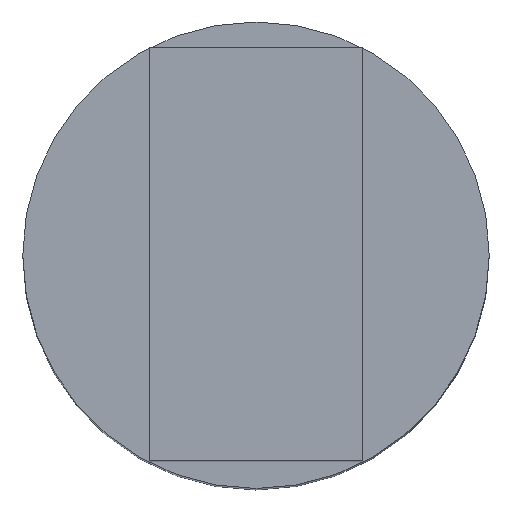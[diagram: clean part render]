
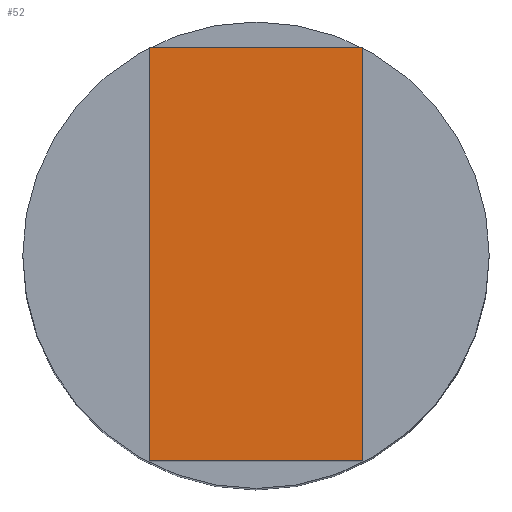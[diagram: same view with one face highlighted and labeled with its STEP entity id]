
A CAD part, top view. The second image highlights one B-rep face of the part: STEP entity #52.
In plain terms, the highlighted planar face has unit normal (0, 0, 1).
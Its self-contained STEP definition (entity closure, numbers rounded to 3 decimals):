
#40=PLANE('',#290);
#52=ADVANCED_FACE('',(#64),#40,.T.);
#64=FACE_OUTER_BOUND('',#78,.F.);
#78=EDGE_LOOP('',(#111,#112,#113,#114));
#111=ORIENTED_EDGE('',*,*,#217,.T.);
#112=ORIENTED_EDGE('',*,*,#220,.T.);
#113=ORIENTED_EDGE('',*,*,#219,.T.);
#114=ORIENTED_EDGE('',*,*,#218,.T.);
#217=EDGE_CURVE('',#260,#259,#233,.T.);
#218=EDGE_CURVE('',#258,#260,#234,.T.);
#219=EDGE_CURVE('',#257,#258,#235,.T.);
#220=EDGE_CURVE('',#259,#257,#236,.T.);
#233=LINE('',#389,#249);
#234=LINE('',#390,#250);
#235=LINE('',#391,#251);
#236=LINE('',#392,#252);
#249=VECTOR('',#322,5.8);
#250=VECTOR('',#323,3.);
#251=VECTOR('',#324,5.8);
#252=VECTOR('',#325,3.);
#257=VERTEX_POINT('',#357);
#258=VERTEX_POINT('',#358);
#259=VERTEX_POINT('',#359);
#260=VERTEX_POINT('',#360);
#290=AXIS2_PLACEMENT_3D('',#404,#344,#345);
#322=DIRECTION('',(0.,1.,0.));
#323=DIRECTION('',(-1.,0.,0.));
#324=DIRECTION('',(0.,-1.,0.));
#325=DIRECTION('',(1.,0.,0.));
#344=DIRECTION('',(0.,0.,1.));
#345=DIRECTION('',(1.,0.,0.));
#357=CARTESIAN_POINT('',(96.5,32.95,186.8));
#358=CARTESIAN_POINT('',(96.5,27.15,186.8));
#359=CARTESIAN_POINT('',(93.5,32.95,186.8));
#360=CARTESIAN_POINT('',(93.5,27.15,186.8));
#389=CARTESIAN_POINT('',(93.5,27.15,186.8));
#390=CARTESIAN_POINT('',(96.5,27.15,186.8));
#391=CARTESIAN_POINT('',(96.5,32.95,186.8));
#392=CARTESIAN_POINT('',(93.5,32.95,186.8));
#404=CARTESIAN_POINT('',(93.442,27.092,186.8));
